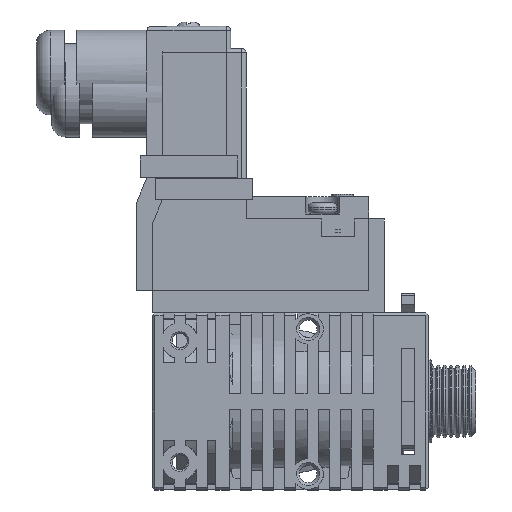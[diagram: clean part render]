
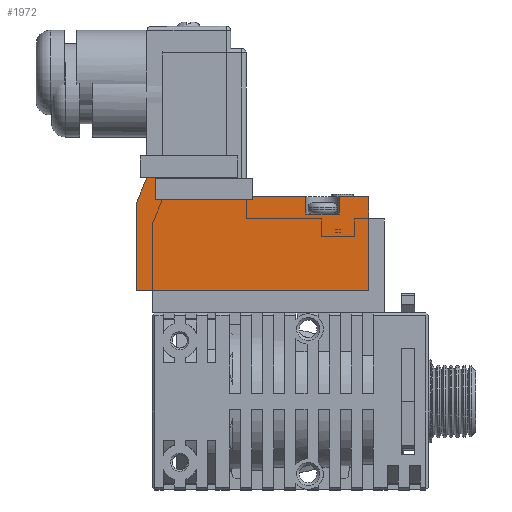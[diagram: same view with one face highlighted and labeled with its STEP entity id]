
A CAD part, front view. The second image highlights one B-rep face of the part: STEP entity #1972.
In plain terms, the highlighted planar face has unit normal (0, -1, 0).
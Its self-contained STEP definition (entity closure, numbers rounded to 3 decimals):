
#1972 = ADVANCED_FACE( '', ( #4402 ), #4403, .T. );
#4402 = FACE_OUTER_BOUND( '', #7329, .T. );
#4403 = PLANE( '', #7330 );
#7329 = EDGE_LOOP( '', ( #13073, #13074, #13075, #13076, #13077, #13078, #13079, #13080, #13081, #13082, #13083 ) );
#7330 = AXIS2_PLACEMENT_3D( '', #13084, #13085, #13086 );
#13073 = ORIENTED_EDGE( '', *, *, #17998, .F. );
#13074 = ORIENTED_EDGE( '', *, *, #18682, .T. );
#13075 = ORIENTED_EDGE( '', *, *, #17219, .T. );
#13076 = ORIENTED_EDGE( '', *, *, #16425, .F. );
#13077 = ORIENTED_EDGE( '', *, *, #18176, .T. );
#13078 = ORIENTED_EDGE( '', *, *, #18683, .T. );
#13079 = ORIENTED_EDGE( '', *, *, #17226, .T. );
#13080 = ORIENTED_EDGE( '', *, *, #17173, .T. );
#13081 = ORIENTED_EDGE( '', *, *, #18684, .T. );
#13082 = ORIENTED_EDGE( '', *, *, #18650, .T. );
#13083 = ORIENTED_EDGE( '', *, *, #16881, .T. );
#13084 = CARTESIAN_POINT( '', ( -27.8, -7.5, 19.98 ) );
#13085 = DIRECTION( '', ( 0., -1., 0. ) );
#13086 = DIRECTION( '', ( 0., 0., -1. ) );
#16425 = EDGE_CURVE( '', #19483, #19479, #19485, .T. );
#16881 = EDGE_CURVE( '', #20289, #20287, #20290, .T. );
#17173 = EDGE_CURVE( '', #20784, #20782, #20785, .T. );
#17219 = EDGE_CURVE( '', #20857, #19479, #20858, .T. );
#17226 = EDGE_CURVE( '', #20870, #20784, #20871, .T. );
#17998 = EDGE_CURVE( '', #22099, #20287, #22101, .T. );
#18176 = EDGE_CURVE( '', #19483, #22371, #22373, .T. );
#18650 = EDGE_CURVE( '', #23043, #20289, #23044, .T. );
#18682 = EDGE_CURVE( '', #22099, #20857, #23086, .T. );
#18683 = EDGE_CURVE( '', #22371, #20870, #23087, .T. );
#18684 = EDGE_CURVE( '', #20782, #23043, #23088, .T. );
#19479 = VERTEX_POINT( '', #24023 );
#19483 = VERTEX_POINT( '', #24029 );
#19485 = LINE( '', #24032, #24033 );
#20287 = VERTEX_POINT( '', #25258 );
#20289 = VERTEX_POINT( '', #25261 );
#20290 = LINE( '', #25262, #25263 );
#20782 = VERTEX_POINT( '', #26043 );
#20784 = VERTEX_POINT( '', #26046 );
#20785 = LINE( '', #26047, #26048 );
#20857 = VERTEX_POINT( '', #26148 );
#20858 = LINE( '', #26149, #26150 );
#20870 = VERTEX_POINT( '', #26167 );
#20871 = LINE( '', #26168, #26169 );
#22099 = VERTEX_POINT( '', #27949 );
#22101 = LINE( '', #27952, #27953 );
#22371 = VERTEX_POINT( '', #28349 );
#22373 = LINE( '', #28352, #28353 );
#23043 = VERTEX_POINT( '', #29384 );
#23044 = LINE( '', #29385, #29386 );
#23086 = LINE( '', #29441, #29442 );
#23087 = LINE( '', #29443, #29444 );
#23088 = LINE( '', #29445, #29446 );
#24023 = CARTESIAN_POINT( '', ( 8.8, -7.5, 36.98 ) );
#24029 = CARTESIAN_POINT( '', ( 8.8, -7.5, 33.88 ) );
#24032 = CARTESIAN_POINT( '', ( 8.8, -7.5, 33.88 ) );
#24033 = VECTOR( '', #30682, 1000. );
#25258 = CARTESIAN_POINT( '', ( -27.8, -7.5, 20. ) );
#25261 = CARTESIAN_POINT( '', ( -27.8, -7.5, 35.98 ) );
#25262 = CARTESIAN_POINT( '', ( -27.8, -7.5, 35.98 ) );
#25263 = VECTOR( '', #31215, 1000. );
#26043 = CARTESIAN_POINT( '', ( -10.8, -7.5, 40.48 ) );
#26046 = CARTESIAN_POINT( '', ( -10.8, -7.5, 36.98 ) );
#26047 = CARTESIAN_POINT( '', ( -10.8, -7.5, 36.98 ) );
#26048 = VECTOR( '', #31533, 1000. );
#26148 = CARTESIAN_POINT( '', ( 14.2, -7.5, 36.98 ) );
#26149 = CARTESIAN_POINT( '', ( 14.2, -7.5, 36.98 ) );
#26150 = VECTOR( '', #31580, 1000. );
#26167 = CARTESIAN_POINT( '', ( 2.8, -7.5, 36.98 ) );
#26168 = CARTESIAN_POINT( '', ( 14.2, -7.5, 36.98 ) );
#26169 = VECTOR( '', #31589, 1000. );
#27949 = CARTESIAN_POINT( '', ( 14.2, -7.5, 20. ) );
#27952 = CARTESIAN_POINT( '', ( 28.5, -7.5, 20. ) );
#27953 = VECTOR( '', #32465, 1000. );
#28349 = CARTESIAN_POINT( '', ( 2.8, -7.5, 33.88 ) );
#28352 = CARTESIAN_POINT( '', ( 8.8, -7.5, 33.88 ) );
#28353 = VECTOR( '', #32640, 1000. );
#29384 = CARTESIAN_POINT( '', ( -25.937, -7.5, 40.48 ) );
#29385 = CARTESIAN_POINT( '', ( -27.8, -7.5, 35.98 ) );
#29386 = VECTOR( '', #33153, 1000. );
#29441 = CARTESIAN_POINT( '', ( 14.2, -7.5, 19.98 ) );
#29442 = VECTOR( '', #33188, 1000. );
#29443 = CARTESIAN_POINT( '', ( 2.8, -7.5, 33.88 ) );
#29444 = VECTOR( '', #33189, 1000. );
#29445 = CARTESIAN_POINT( '', ( -25.937, -7.5, 40.48 ) );
#29446 = VECTOR( '', #33190, 1000. );
#30682 = DIRECTION( '', ( 0., 0., 1. ) );
#31215 = DIRECTION( '', ( 0., 0., -1. ) );
#31533 = DIRECTION( '', ( 0., 0., 1. ) );
#31580 = DIRECTION( '', ( -1., 0., 0. ) );
#31589 = DIRECTION( '', ( -1., 0., 0. ) );
#32465 = DIRECTION( '', ( -1., 0., 0. ) );
#32640 = DIRECTION( '', ( -1., 0., 0. ) );
#33153 = DIRECTION( '', ( -0.382, 0., -0.924 ) );
#33188 = DIRECTION( '', ( 0., 0., 1. ) );
#33189 = DIRECTION( '', ( 0., 0., 1. ) );
#33190 = DIRECTION( '', ( -1., 0., 0. ) );
